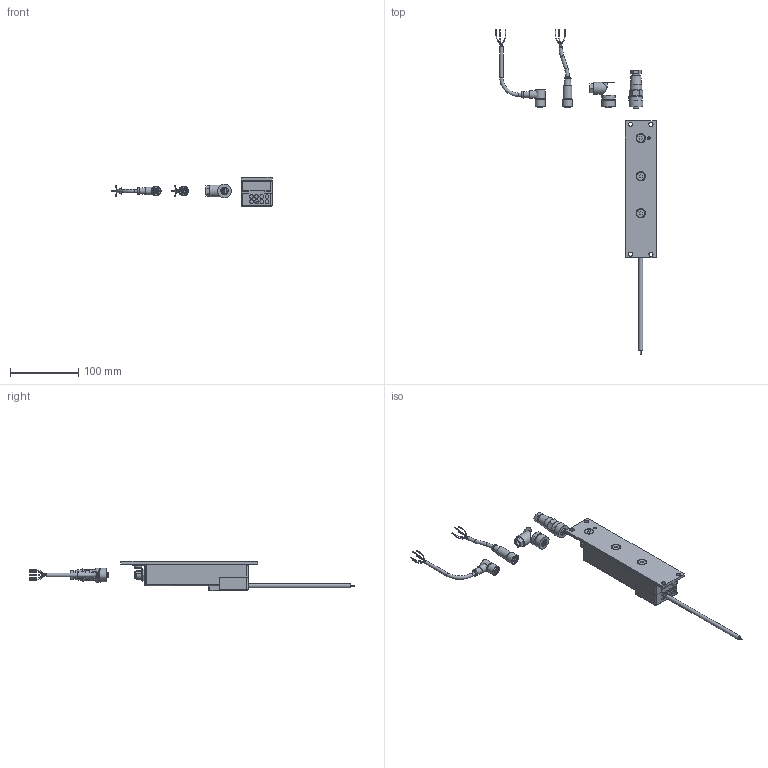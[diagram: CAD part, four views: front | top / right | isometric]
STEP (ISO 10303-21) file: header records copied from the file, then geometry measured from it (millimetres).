
FILE_DESCRIPTION(('ONLY FOR INFORMATION','HiCAD-Model','HiCAD-STEP-TRANSLATION'),'2;1');
FILE_NAME('Q:/##','2012-00-00',('D&E Department'),('Simco-Ion Europe','Aalsvoort 74','NL-7241 MB LOCHEM','www.simco-ion.nl'),' HiCAD 2011, Step 1600.0 ','HiCAD 2011','confidential');
FILE_SCHEMA(('AUTOMOTIVE_DESIGN { 1 2 10303 214 0 1 1 1 }'));
Length unit declared in the file: millimetre
Products named in the file (80): SIMCO_ION_CMM_EASY; A_CMM EASY; DIN 6797_J 4_3_FST_WASHERS_0; ISO 10642_M6X10_10_9_COUNTERSU; ISO 7045_M4X6_4_8_H_PAN HEAD B; A210500641_STELSCHROEF M6X12 Z; ISO 4032_M4_10_HEXAGON NUTS; MOER_CONNECTOR_M12; ISO 10642_M6X16_10_9_COUNTERSU; ISO0106420M6X16010090COUNTERSU; DIN067970J04030FST0WASHERS00; CASE PM 09304000; CUBOID_0_BASE PLATE; CYLINDER_0; A_CONNECTOR M12 MALE SOCKET; A; ABSR_1; ABSR01; ABSR010; ABSR011; ABSR012; INSERT; A_HEAD CMM EASY; A_HEAD 1 POSITION; A519020365_CABLE 5 M WITH STRA; C_EDGE SWEEP_0; BROWN; BROWN0; BROWN1; BROWN2; BROWN3; ADERS; SEMI GESTRIPT; ADERS0; SEMI0GESTRIPT; ADERS1; SEMI0GESTRIPT0; ADERS2; SEMI0GESTRIPT1; ADERS3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
Assembly tree (79 placements, depth 4):
  SIMCO_ION_CMM_EASY
    A_CMM EASY
      DIN 6797_J 4_3_FST_WASHERS_0
      ISO 10642_M6X10_10_9_COUNTERSU
      ISO 7045_M4X6_4_8_H_PAN HEAD B
      A210500641_STELSCHROEF M6X12 Z
      ISO 4032_M4_10_HEXAGON NUTS
      MOER_CONNECTOR_M12
      ISO 10642_M6X16_10_9_COUNTERSU
      ISO0106420M6X16010090COUNTERSU
      DIN067970J04030FST0WASHERS00
      CASE PM 09304000
      CUBOID_0_BASE PLATE
      CYLINDER_0
      A_CONNECTOR M12 MALE SOCKET
        A
        ABSR_1
        ABSR01
        ABSR010
        ABSR011
        ABSR012
        INSERT
    A_HEAD CMM EASY
      A_HEAD 1 POSITION
    A519020365_CABLE 5 M WITH STRA
      C_EDGE SWEEP_0
      BROWN
      BROWN0
      BROWN1
      BROWN2
      BROWN3
      ADERS
      SEMI GESTRIPT
      ADERS0
      SEMI0GESTRIPT
      ADERS1
      SEMI0GESTRIPT0
      ADERS2
      SEMI0GESTRIPT1
      ADERS3
      SEMI0GESTRIPT2
      REVOLVED SOLID_1
      EXTRUDED SOLID_0
      REVOLVED SOLID_3
    A124970085_CABLE HV SILICON _6
      A_COPPER CORE
      A_SILICON INSULATION
    A519020375_CABLE 5 M WITH RIGH
      REVOLVED0SOLID01
      C0EDGE0SWEEP00
      BROWN4
      BROWN5
      BROWN6
      BROWN7
      BROWN8
      ADERS4
      SEMI0GESTRIPT3
      ADERS5
      SEMI0GESTRIPT4
      ADERS6
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Bounding box: 234.29 x 474.16 x 43 mm (x, y, z)
Volume: 284727.3 mm3; surface area: 103369 mm2
Topology: 74 solids, 75 shells, 961 faces, 2192 edges, 1408 vertices
Faces by surface type: plane 475, cylinder 310, cone 64, torus 59, bspline 32, sphere 21
Full cylindrical faces by diameter (mm): 0.5 x20, 0.8 x20, 0.812 x40, 1 x10, 1.3 x2, 1.6 x5, 2 x2, 2.2 x1, 3.141 x2, 4 x6, 4.3 x2, 4.5 x2, 4.6 x1, 4.773 x5, 5 x6, 5.3 x1, 5.5 x8, 6 x11, 6.6 x3, 7.3 x1, 7.5 x2, 7.535 x2, 7.75 x1, 7.9 x2, 8 x7, 8.4 x2, 8.5 x1, 8.73 x1, 8.75 x1, 9 x3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
Entity records: 40127 total; most frequent: CARTESIAN_POINT 8358, DIRECTION 4466, ORIENTED_EDGE 3564, COLOUR_RGB 1888, PRESENTATION_STYLE_ASSIGNMENT 1888, AXIS2_PLACEMENT_3D 1817, OVER_RIDING_STYLED_ITEM 1817, EDGE_CURVE 1782
